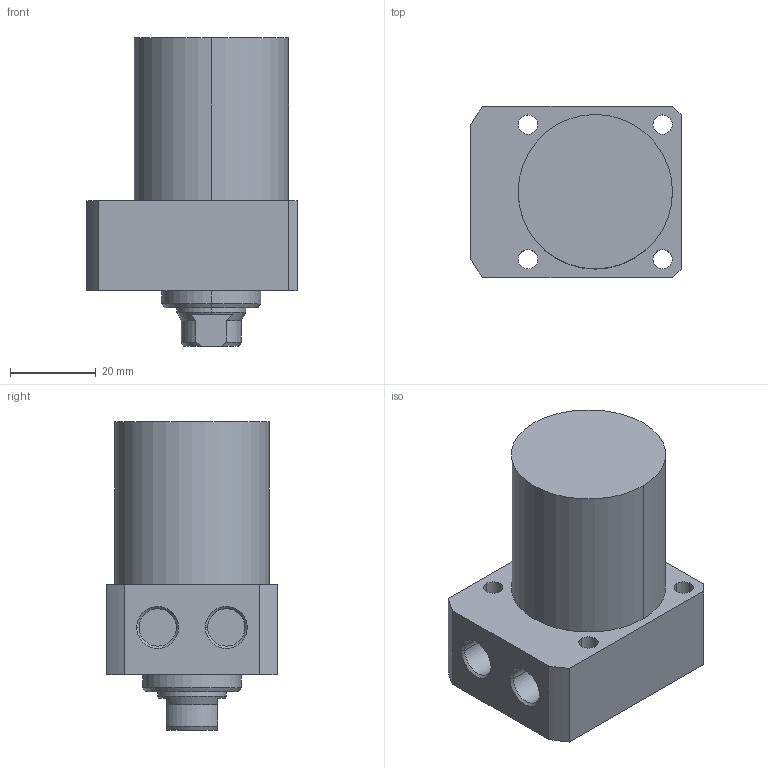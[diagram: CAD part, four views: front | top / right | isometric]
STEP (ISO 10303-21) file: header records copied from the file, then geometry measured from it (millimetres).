
FILE_DESCRIPTION((' '),'2;1');
FILE_NAME( 'TLLR-036CA-030.STEP.stp', '2025-10-24T16:35:43', (' '), ('--- Datakit www.datakit.com---'), ' Datakit CrossCadWare V2024.1 Dec 21 2023', 'Mastercam 2025', ' ');
FILE_SCHEMA(('AUTOMOTIVE_DESIGN { 1 0 10303 214 1 1 1 1 }'));
Length unit declared in the file: millimetre
Products named in the file (1): TLLR-036CA-030
Bounding box: 49 x 40 x 72 mm (x, y, z)
Volume: 79382.9 mm3; surface area: 14377.5 mm2
Topology: 1 solids, 1 shells, 61 faces, 172 edges, 119 vertices
Faces by surface type: cylinder 28, plane 19, cone 14
Entity records: 2092 total; most frequent: DIRECTION 384, CARTESIAN_POINT 383, ORIENTED_EDGE 340, EDGE_CURVE 170, AXIS2_PLACEMENT_3D 160, VERTEX_POINT 119, CIRCLE 98, EDGE_LOOP 77
